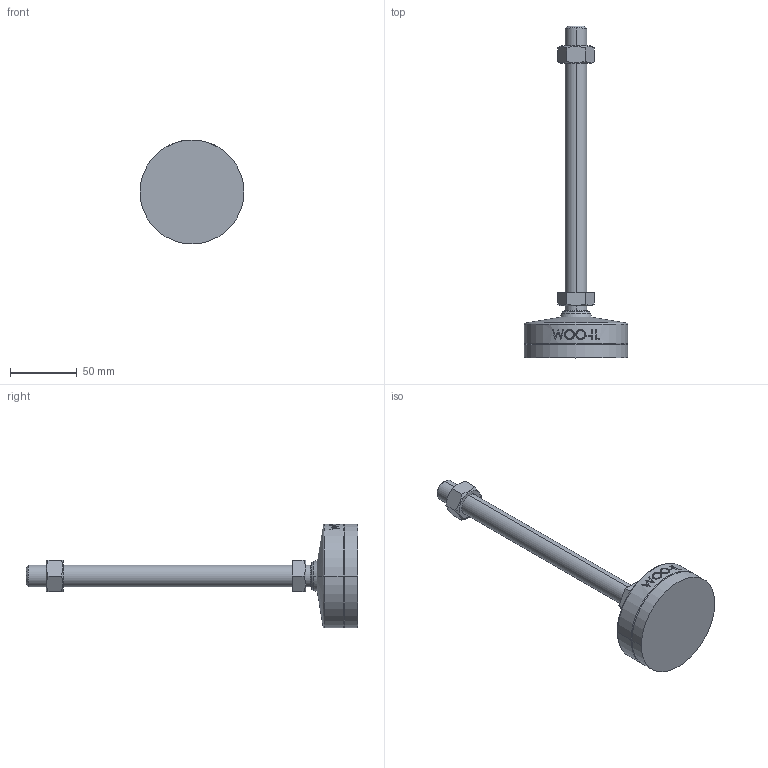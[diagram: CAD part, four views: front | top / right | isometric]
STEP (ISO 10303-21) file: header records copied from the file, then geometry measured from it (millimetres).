
FILE_DESCRIPTION (( 'STEP AP214' ), '1' );
FILE_NAME ('MFNR78-M16-200.step', '2021-02-22T09:07:58', ( '' ), ( '' ), 'SwSTEP 2.0', 'SolidWorks 2019', '' );
FILE_SCHEMA (( 'AUTOMOTIVE_DESIGN' ));
Length unit declared in the file: millimetre
Products named in the file (2): MFNR78-M16-200
Bounding box: 78 x 249 x 78 mm (x, y, z)
Volume: 185587.4 mm3; surface area: 30296 mm2
Topology: 2 solids, 2 shells, 105 faces, 245 edges, 156 vertices
Faces by surface type: plane 47, cone 18, cylinder 18, bspline 16, torus 4, sphere 2
Entity records: 4517 total; most frequent: CARTESIAN_POINT 2180, ORIENTED_EDGE 490, DIRECTION 437, EDGE_CURVE 245, AXIS2_PLACEMENT_3D 167, VERTEX_POINT 156, EDGE_LOOP 119, FACE_OUTER_BOUND 105
